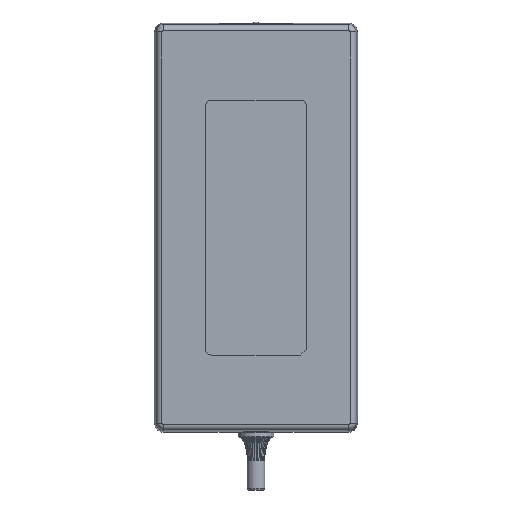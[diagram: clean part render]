
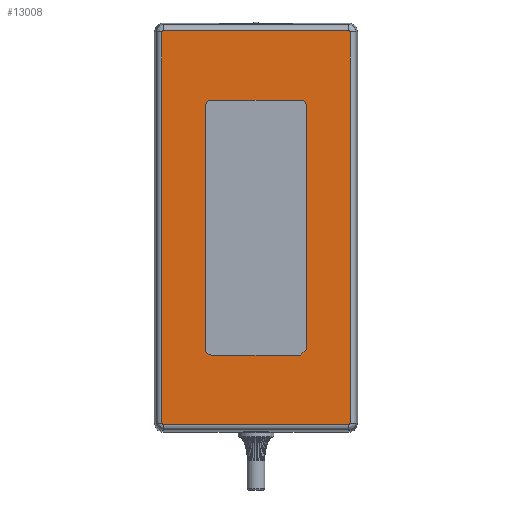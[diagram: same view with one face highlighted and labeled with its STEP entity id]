
A CAD part, front view. The second image highlights one B-rep face of the part: STEP entity #13008.
In plain terms, the highlighted planar face has unit normal (0, -1, 0) as drawn and (0, 1, 0) by its records, which use the part's own axes.
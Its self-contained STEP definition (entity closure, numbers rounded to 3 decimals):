
#7444=CARTESIAN_POINT('',(31.25,24.5,-135.));
#7445=DIRECTION('',(0.,-1.,0.));
#7446=DIRECTION('',(0.,0.,-1.));
#7447=AXIS2_PLACEMENT_3D('',#7444,#7445,#7446);
#7449=CARTESIAN_POINT('',(31.25,24.5,-3.));
#7450=DIRECTION('',(0.,-1.,0.));
#7451=DIRECTION('',(1.,0.,0.));
#7452=AXIS2_PLACEMENT_3D('',#7449,#7450,#7451);
#7454=CARTESIAN_POINT('',(-31.25,24.5,-3.));
#7455=DIRECTION('',(0.,-1.,0.));
#7456=DIRECTION('',(0.,0.,1.));
#7457=AXIS2_PLACEMENT_3D('',#7454,#7455,#7456);
#7459=CARTESIAN_POINT('',(-31.25,24.5,-135.));
#7460=DIRECTION('',(0.,-1.,0.));
#7461=DIRECTION('',(-1.,0.,0.));
#7462=AXIS2_PLACEMENT_3D('',#7459,#7460,#7461);
#7464=DIRECTION('',(1.,0.,0.));
#7465=VECTOR('',#7464,30.);
#7466=CARTESIAN_POINT('',(-15.,24.5,-26.));
#7467=LINE('',#7466,#7465);
#7468=CARTESIAN_POINT('',(15.,24.5,-28.));
#7469=DIRECTION('',(0.,1.,0.));
#7470=DIRECTION('',(0.,0.,1.));
#7471=AXIS2_PLACEMENT_3D('',#7468,#7469,#7470);
#7473=DIRECTION('',(0.,0.,-1.));
#7474=VECTOR('',#7473,82.);
#7475=CARTESIAN_POINT('',(17.,24.5,-28.));
#7476=LINE('',#7475,#7474);
#7477=CARTESIAN_POINT('',(15.,24.5,-110.));
#7478=DIRECTION('',(0.,1.,0.));
#7479=DIRECTION('',(1.,0.,0.));
#7480=AXIS2_PLACEMENT_3D('',#7477,#7478,#7479);
#7482=DIRECTION('',(-1.,0.,0.));
#7483=VECTOR('',#7482,30.);
#7484=CARTESIAN_POINT('',(15.,24.5,-112.));
#7485=LINE('',#7484,#7483);
#7486=DIRECTION('',(-0.707,0.,0.707));
#7487=VECTOR('',#7486,2.828);
#7488=CARTESIAN_POINT('',(-15.,24.5,-112.));
#7489=LINE('',#7488,#7487);
#7490=DIRECTION('',(0.,0.,1.));
#7491=VECTOR('',#7490,82.);
#7492=CARTESIAN_POINT('',(-17.,24.5,-110.));
#7493=LINE('',#7492,#7491);
#7494=CARTESIAN_POINT('',(-15.,24.5,-28.));
#7495=DIRECTION('',(0.,1.,0.));
#7496=DIRECTION('',(-1.,0.,0.));
#7497=AXIS2_PLACEMENT_3D('',#7494,#7495,#7496);
#7514=DIRECTION('',(-1.,0.,0.));
#7515=VECTOR('',#7514,62.5);
#7516=CARTESIAN_POINT('',(31.25,24.5,-135.473));
#7517=LINE('',#7516,#7515);
#7537=DIRECTION('',(0.,0.,1.));
#7538=VECTOR('',#7537,132.);
#7539=CARTESIAN_POINT('',(-31.723,24.5,-135.));
#7540=LINE('',#7539,#7538);
#7560=DIRECTION('',(1.,0.,0.));
#7561=VECTOR('',#7560,62.5);
#7562=CARTESIAN_POINT('',(-31.25,24.5,-2.527));
#7563=LINE('',#7562,#7561);
#7583=DIRECTION('',(0.,0.,-1.));
#7584=VECTOR('',#7583,132.);
#7585=CARTESIAN_POINT('',(31.723,24.5,-3.));
#7586=LINE('',#7585,#7584);
#11859=CARTESIAN_POINT('',(31.25,24.5,
-135.473));
#11860=CARTESIAN_POINT('',(31.723,24.5,-135.));
#11861=VERTEX_POINT('',#11859);
#11862=VERTEX_POINT('',#11860);
#11863=CARTESIAN_POINT('',(31.723,24.5,-3.));
#11864=VERTEX_POINT('',#11863);
#11865=CARTESIAN_POINT('',(31.25,24.5,-2.527));
#11866=VERTEX_POINT('',#11865);
#11867=CARTESIAN_POINT('',(-31.25,24.5,-2.527));
#11868=VERTEX_POINT('',#11867);
#11869=CARTESIAN_POINT('',(-31.723,24.5,
-3.));
#11870=VERTEX_POINT('',#11869);
#11871=CARTESIAN_POINT('',(-31.723,24.5,-135.));
#11872=VERTEX_POINT('',#11871);
#11873=CARTESIAN_POINT('',(-31.25,24.5,
-135.473));
#11874=VERTEX_POINT('',#11873);
#11875=CARTESIAN_POINT('',(-15.,24.5,-26.));
#11876=CARTESIAN_POINT('',(15.,24.5,-26.));
#11877=VERTEX_POINT('',#11875);
#11878=VERTEX_POINT('',#11876);
#11879=CARTESIAN_POINT('',(17.,24.5,-28.));
#11880=VERTEX_POINT('',#11879);
#11881=CARTESIAN_POINT('',(17.,24.5,-110.));
#11882=VERTEX_POINT('',#11881);
#11883=CARTESIAN_POINT('',(15.,24.5,-112.));
#11884=VERTEX_POINT('',#11883);
#11885=CARTESIAN_POINT('',(-15.,24.5,-112.));
#11886=VERTEX_POINT('',#11885);
#11887=CARTESIAN_POINT('',(-17.,24.5,-110.));
#11888=VERTEX_POINT('',#11887);
#11889=CARTESIAN_POINT('',(-17.,24.5,-28.));
#11890=VERTEX_POINT('',#11889);
#12967=CARTESIAN_POINT('',(34.25,24.5,0.));
#12968=DIRECTION('',(0.,1.,0.));
#12969=DIRECTION('',(-1.,0.,0.));
#12970=AXIS2_PLACEMENT_3D('',#12967,#12968,#12969);
#12971=PLANE('',#12970);
#12973=ORIENTED_EDGE('',*,*,#12972,.T.);
#12975=ORIENTED_EDGE('',*,*,#12974,.F.);
#12977=ORIENTED_EDGE('',*,*,#12976,.T.);
#12979=ORIENTED_EDGE('',*,*,#12978,.F.);
#12981=ORIENTED_EDGE('',*,*,#12980,.T.);
#12983=ORIENTED_EDGE('',*,*,#12982,.F.);
#12985=ORIENTED_EDGE('',*,*,#12984,.T.);
#12987=ORIENTED_EDGE('',*,*,#12986,.F.);
#12988=EDGE_LOOP('',(#12973,#12975,#12977,#12979,#12981,#12983,#12985,#12987));
#12989=FACE_OUTER_BOUND('',#12988,.F.);
#12991=ORIENTED_EDGE('',*,*,#12990,.T.);
#12993=ORIENTED_EDGE('',*,*,#12992,.T.);
#12995=ORIENTED_EDGE('',*,*,#12994,.T.);
#12997=ORIENTED_EDGE('',*,*,#12996,.T.);
#12999=ORIENTED_EDGE('',*,*,#12998,.T.);
#13001=ORIENTED_EDGE('',*,*,#13000,.T.);
#13003=ORIENTED_EDGE('',*,*,#13002,.T.);
#13005=ORIENTED_EDGE('',*,*,#13004,.T.);
#13006=EDGE_LOOP('',(#12991,#12993,#12995,#12997,#12999,#13001,#13003,#13005));
#13007=FACE_BOUND('',#13006,.F.);
#13008=ADVANCED_FACE('',(#12989,#13007),#12971,.T.);
#7448=CIRCLE('',#7447,0.473);
#7453=CIRCLE('',#7452,0.473);
#7458=CIRCLE('',#7457,0.473);
#7463=CIRCLE('',#7462,0.473);
#7472=CIRCLE('',#7471,2.);
#7481=CIRCLE('',#7480,2.);
#7498=CIRCLE('',#7497,2.);
#12972=EDGE_CURVE('',#11861,#11862,#7448,.T.);
#12974=EDGE_CURVE('',#11864,#11862,#7586,.T.);
#12976=EDGE_CURVE('',#11864,#11866,#7453,.T.);
#12978=EDGE_CURVE('',#11868,#11866,#7563,.T.);
#12980=EDGE_CURVE('',#11868,#11870,#7458,.T.);
#12982=EDGE_CURVE('',#11872,#11870,#7540,.T.);
#12984=EDGE_CURVE('',#11872,#11874,#7463,.T.);
#12986=EDGE_CURVE('',#11861,#11874,#7517,.T.);
#12990=EDGE_CURVE('',#11877,#11878,#7467,.T.);
#12992=EDGE_CURVE('',#11878,#11880,#7472,.T.);
#12994=EDGE_CURVE('',#11880,#11882,#7476,.T.);
#12996=EDGE_CURVE('',#11882,#11884,#7481,.T.);
#12998=EDGE_CURVE('',#11884,#11886,#7485,.T.);
#13000=EDGE_CURVE('',#11886,#11888,#7489,.T.);
#13002=EDGE_CURVE('',#11888,#11890,#7493,.T.);
#13004=EDGE_CURVE('',#11890,#11877,#7498,.T.);
